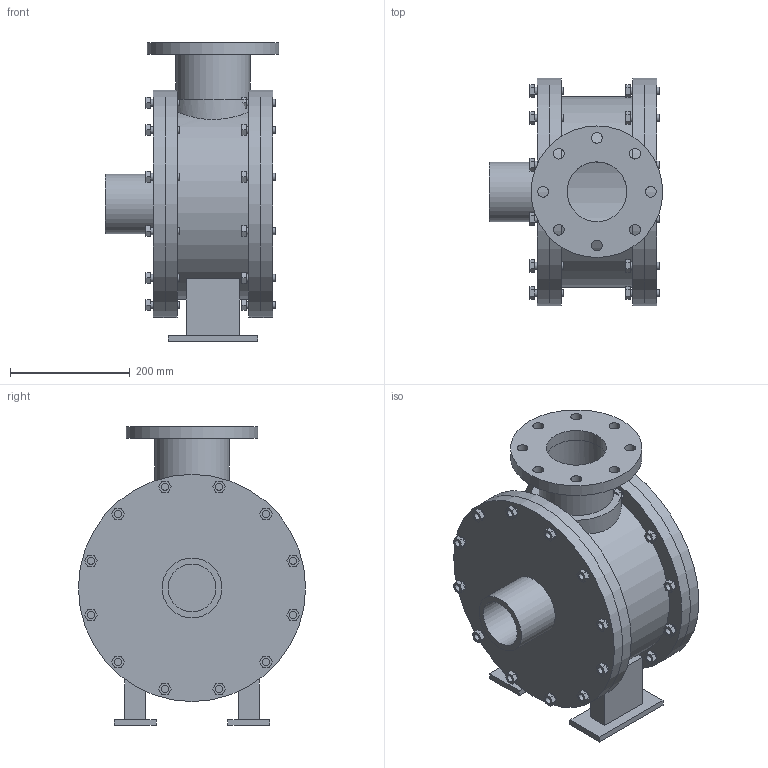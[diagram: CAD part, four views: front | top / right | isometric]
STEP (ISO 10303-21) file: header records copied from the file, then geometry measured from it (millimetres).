
FILE_DESCRIPTION(('Open CASCADE Model'),'2;1');
FILE_NAME('Open CASCADE Shape Model','2026-09-13T08:48:18',('Author'),( 'Open CASCADE'),'Open CASCADE STEP processor 7.8','Open CASCADE 7.8' ,'Unknown');
FILE_SCHEMA(('AUTOMOTIVE_DESIGN { 1 0 10303 214 1 1 1 1 }'));
Length unit declared in the file: millimetre
Products named in the file (60): Open CASCADE STEP translator 7.8 1; Open CASCADE STEP translator 7.8 1.1; Open CASCADE STEP translator 7.8 1.2; Open CASCADE STEP translator 7.8 1.3; Open CASCADE STEP translator 7.8 1.4; Open CASCADE STEP translator 7.8 1.5; Open CASCADE STEP translator 7.8 1.6; Open CASCADE STEP translator 7.8 1.7; Open CASCADE STEP translator 7.8 1.8; Open CASCADE STEP translator 7.8 1.9; Open CASCADE STEP translator 7.8 1.10; Open CASCADE STEP translator 7.8 1.11; Open CASCADE STEP translator 7.8 1.12; Open CASCADE STEP translator 7.8 1.13; Open CASCADE STEP translator 7.8 1.14; Open CASCADE STEP translator 7.8 1.15; Open CASCADE STEP translator 7.8 1.16; Open CASCADE STEP translator 7.8 1.17; Open CASCADE STEP translator 7.8 1.18; Open CASCADE STEP translator 7.8 1.19; Open CASCADE STEP translator 7.8 1.20; Open CASCADE STEP translator 7.8 1.21; Open CASCADE STEP translator 7.8 1.22; Open CASCADE STEP translator 7.8 1.23; Open CASCADE STEP translator 7.8 1.24; Open CASCADE STEP translator 7.8 1.25; Open CASCADE STEP translator 7.8 1.26; Open CASCADE STEP translator 7.8 1.27; Open CASCADE STEP translator 7.8 1.28; Open CASCADE STEP translator 7.8 1.29; Open CASCADE STEP translator 7.8 1.30; Open CASCADE STEP translator 7.8 1.31; Open CASCADE STEP translator 7.8 1.32; Open CASCADE STEP translator 7.8 1.33; Open CASCADE STEP translator 7.8 1.34; Open CASCADE STEP translator 7.8 1.35; Open CASCADE STEP translator 7.8 1.36; Open CASCADE STEP translator 7.8 1.37; Open CASCADE STEP translator 7.8 1.38; Open CASCADE STEP translator 7.8 1.39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
Assembly tree (59 placements, depth 2):
  Open CASCADE STEP translator 7.8 1
    Open CASCADE STEP translator 7.8 1.1
    Open CASCADE STEP translator 7.8 1.2
    Open CASCADE STEP translator 7.8 1.3
    Open CASCADE STEP translator 7.8 1.4
    Open CASCADE STEP translator 7.8 1.5
    Open CASCADE STEP translator 7.8 1.6
    Open CASCADE STEP translator 7.8 1.7
    Open CASCADE STEP translator 7.8 1.8
    Open CASCADE STEP translator 7.8 1.9
    Open CASCADE STEP translator 7.8 1.10
    Open CASCADE STEP translator 7.8 1.11
    Open CASCADE STEP translator 7.8 1.12
    Open CASCADE STEP translator 7.8 1.13
    Open CASCADE STEP translator 7.8 1.14
    Open CASCADE STEP translator 7.8 1.15
    Open CASCADE STEP translator 7.8 1.16
    Open CASCADE STEP translator 7.8 1.17
    Open CASCADE STEP translator 7.8 1.18
    Open CASCADE STEP translator 7.8 1.19
    Open CASCADE STEP translator 7.8 1.20
    Open CASCADE STEP translator 7.8 1.21
    Open CASCADE STEP translator 7.8 1.22
    Open CASCADE STEP translator 7.8 1.23
    Open CASCADE STEP translator 7.8 1.24
    Open CASCADE STEP translator 7.8 1.25
    Open CASCADE STEP translator 7.8 1.26
    Open CASCADE STEP translator 7.8 1.27
    Open CASCADE STEP translator 7.8 1.28
    Open CASCADE STEP translator 7.8 1.29
    Open CASCADE STEP translator 7.8 1.30
    Open CASCADE STEP translator 7.8 1.31
    Open CASCADE STEP translator 7.8 1.32
    Open CASCADE STEP translator 7.8 1.33
    Open CASCADE STEP translator 7.8 1.34
    Open CASCADE STEP translator 7.8 1.35
    Open CASCADE STEP translator 7.8 1.36
    Open CASCADE STEP translator 7.8 1.37
    Open CASCADE STEP translator 7.8 1.38
    Open CASCADE STEP translator 7.8 1.39
    Open CASCADE STEP translator 7.8 1.40
    Open CASCADE STEP translator 7.8 1.41
    Open CASCADE STEP translator 7.8 1.42
    Open CASCADE STEP translator 7.8 1.43
    Open CASCADE STEP translator 7.8 1.44
    Open CASCADE STEP translator 7.8 1.45
    Open CASCADE STEP translator 7.8 1.46
    Open CASCADE STEP translator 7.8 1.47
    Open CASCADE STEP translator 7.8 1.48
    Open CASCADE STEP translator 7.8 1.49
    Open CASCADE STEP translator 7.8 1.50
    Open CASCADE STEP translator 7.8 1.51
    Open CASCADE STEP translator 7.8 1.52
    Open CASCADE STEP translator 7.8 1.53
    Open CASCADE STEP translator 7.8 1.54
    Open CASCADE STEP translator 7.8 1.55
    Open CASCADE STEP translator 7.8 1.56
    Open CASCADE STEP translator 7.8 1.57
    Open CASCADE STEP translator 7.8 1.58
    Open CASCADE STEP translator 7.8 1.59
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Bounding box: 290 x 380 x 500 mm (x, y, z)
Volume: 9393900.5 mm3; surface area: 1417952.9 mm2
Topology: 59 solids, 59 shells, 400 faces, 849 edges, 566 vertices
Faces by surface type: plane 280, cylinder 120
Full cylindrical faces by diameter (mm): 12 x48, 14 x48, 18 x8, 80 x2, 100 x3, 124 x1, 150 x1, 220 x1, 300 x3, 380 x4
Entity records: 26560 total; most frequent: CARTESIAN_POINT 7448, DIRECTION 3562, LINE 2041, VECTOR 2041, ORIENTED_EDGE 1698, PCURVE 1698, DEFINITIONAL_REPRESENTATION 1698, EDGE_CURVE 849
